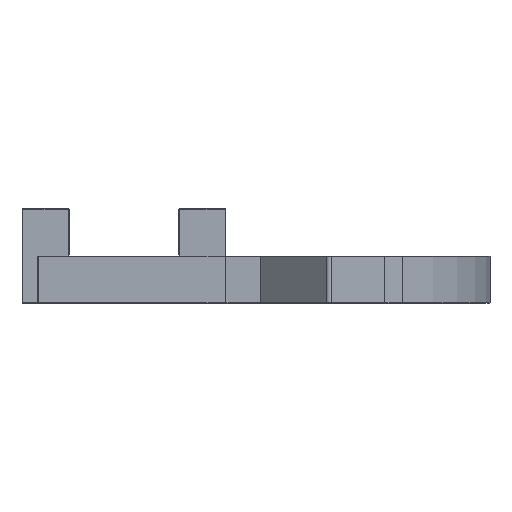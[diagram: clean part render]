
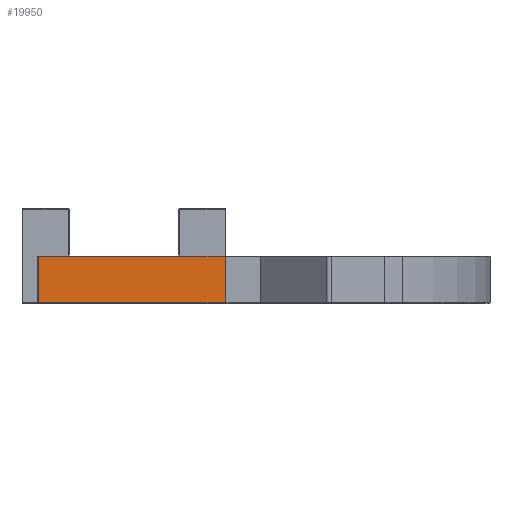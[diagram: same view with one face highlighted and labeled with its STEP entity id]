
A CAD part, left-side view. The second image highlights one B-rep face of the part: STEP entity #19950.
In plain terms, the highlighted planar face has unit normal (-1, 0, 0).
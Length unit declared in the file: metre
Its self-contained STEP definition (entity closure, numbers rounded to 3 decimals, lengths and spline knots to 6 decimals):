
#3520=ORIENTED_EDGE('',*,*,#7641,.T.);
#3521=ORIENTED_EDGE('',*,*,#7642,.T.);
#3522=ORIENTED_EDGE('',*,*,#7643,.T.);
#3523=ORIENTED_EDGE('',*,*,#7644,.T.);
#7641=EDGE_CURVE('',#9808,#9809,#11909,.F.);
#7642=EDGE_CURVE('',#9809,#9810,#11910,.T.);
#7643=EDGE_CURVE('',#9810,#9811,#11911,.T.);
#7644=EDGE_CURVE('',#9811,#9808,#11912,.T.);
#9808=VERTEX_POINT('',#30740);
#9809=VERTEX_POINT('',#30741);
#9810=VERTEX_POINT('',#30743);
#9811=VERTEX_POINT('',#30745);
#11909=LINE('',#30739,#14413);
#11910=LINE('',#30742,#14414);
#11911=LINE('',#30744,#14415);
#11912=LINE('',#30746,#14416);
#14413=VECTOR('',#25000,1.);
#14414=VECTOR('',#25001,1.);
#14415=VECTOR('',#25002,1.);
#14416=VECTOR('',#25003,1.);
#16294=EDGE_LOOP('',(#3520,#3521,#3522,#3523));
#17653=FACE_BOUND('',#16294,.T.);
#18844=PLANE('',#21390);
#19950=ADVANCED_FACE('',(#17653),#18844,.T.);
#21390=AXIS2_PLACEMENT_3D('',#30738,#24998,#24999);
#24998=DIRECTION('',(-1.,0.,0.));
#24999=DIRECTION('',(0.,0.,1.));
#25000=DIRECTION('',(0.,0.,-1.));
#25001=DIRECTION('',(0.,1.,0.));
#25002=DIRECTION('',(0.,0.,-1.));
#25003=DIRECTION('',(0.,-1.,0.));
#30738=CARTESIAN_POINT('',(-0.14298,0.0075,0.015));
#30739=CARTESIAN_POINT('',(-0.14298,0.00032,0.015));
#30740=CARTESIAN_POINT('',(-0.14298,0.00032,0.00005));
#30741=CARTESIAN_POINT('',(-0.14298,0.00032,0.01495));
#30742=CARTESIAN_POINT('',(-0.14298,0.0075,0.01495));
#30743=CARTESIAN_POINT('',(-0.14298,0.05968,0.01495));
#30744=CARTESIAN_POINT('',(-0.14298,0.05968,0.015));
#30745=CARTESIAN_POINT('',(-0.14298,0.05968,0.00005));
#30746=CARTESIAN_POINT('',(-0.14298,0.00032,0.00005));
